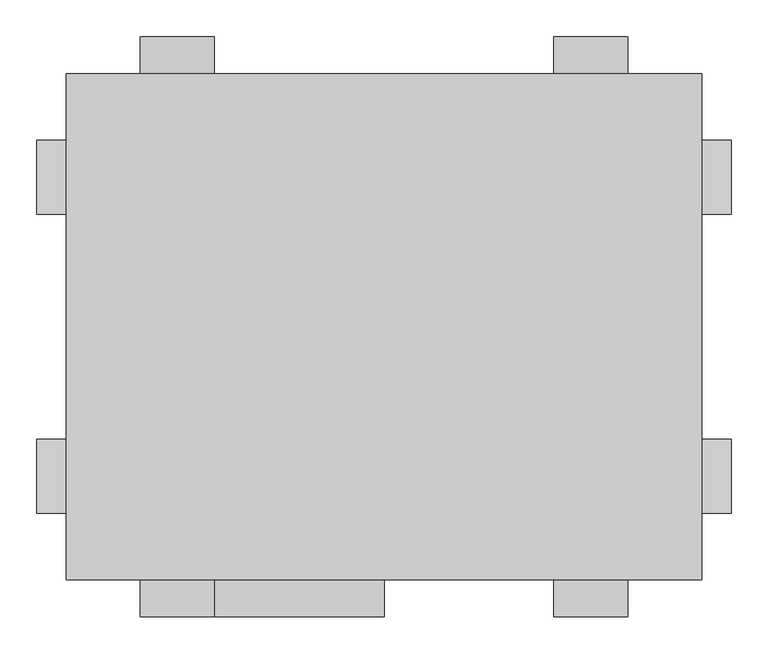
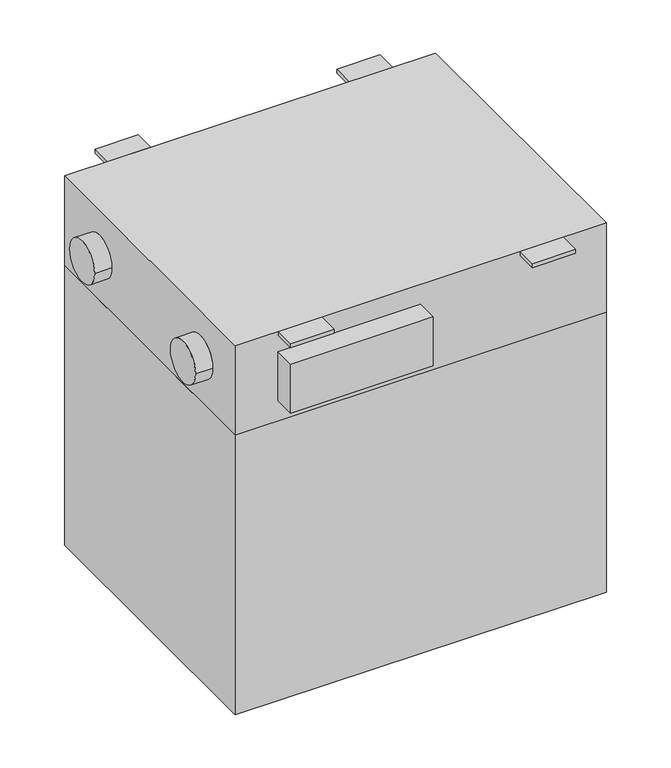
"""IFC4 building model written with IfcOpenShell, lengths in millimetres: proxy geometry, ADSK_КПВУ RONA SRME_круглая : Rona SRME 180 H1."""

import ifcopenshell
import ifcopenshell.guid

model = None  # the IFC model being written
_history = None  # IfcOwnerHistory: only IFC2X3 demands one
_inside = {}  # id of a spatial element -> (the spatial element, [elements in it])
_under = {}  # id of a project, library or spatial element -> (it, [spatial elements below it])
_declared = {}  # id of a project -> (the project, [libraries it declares])
_typed = {}  # id of a type object -> (the type object, [elements of that type])
_made_of = {}  # id of a material, layer set ... -> (it, [elements and type objects made of it])


def new_model(schema):
    """Start an empty IFC model of exactly this schema.

    Asked for "IFC4X3", IfcOpenShell would pick the latest addendum, in which some entities
    have other attributes; the version numbers below select the first issue.
    IFC2X3 requires an IfcOwnerHistory on every rooted entity: one is made here for all.
    """
    global model, _history
    if schema == "IFC4X3":
        model = ifcopenshell.file(schema_version=(4, 3, 0, 0))
    else:
        model = ifcopenshell.file(schema=schema)
    _inside.clear()
    _under.clear()
    _declared.clear()
    _typed.clear()
    _made_of.clear()
    _history = None
    if model.schema == "IFC2X3":
        org = make("IfcOrganization", Name="unknown")
        user = make(
            "IfcPersonAndOrganization",
            ThePerson=make("IfcPerson", FamilyName="unknown"),
            TheOrganization=org,
        )
        app = make(
            "IfcApplication",
            ApplicationDeveloper=org,
            Version="unknown",
            ApplicationFullName="unknown",
            ApplicationIdentifier="unknown",
        )
        _history = make(
            "IfcOwnerHistory",
            OwningUser=user,
            OwningApplication=app,
            ChangeAction="ADDED",
            CreationDate=0,
        )
    return model


def make(cls, **values):
    """One entity of the class cls with the attributes given. An attribute that is None is left unset."""
    return model.create_entity(
        cls, **{name: value for name, value in values.items() if value is not None}
    )


def rooted(cls, **values):
    """An entity with a GlobalId (a new one), such as an element, a storey or a relation."""
    return make(cls, GlobalId=ifcopenshell.guid.new(), OwnerHistory=_history, **values)


def si_unit(unit_type, name, prefix=None):
    """IfcSIUnit, for example si_unit("LENGTHUNIT", "METRE", prefix="MILLI")."""
    return make("IfcSIUnit", UnitType=unit_type, Prefix=prefix, Name=name)


def assignment(units):
    """IfcUnitAssignment: the units of a project."""
    return None if units is None else make("IfcUnitAssignment", Units=units)


def point(xyz):
    """IfcCartesianPoint."""
    return None if xyz is None else make("IfcCartesianPoint", Coordinates=xyz)


def direction(xyz):
    """IfcDirection."""
    return None if xyz is None else make("IfcDirection", DirectionRatios=xyz)


def frame(location, z_axis=None, x_axis=None):
    """IfcAxis2Placement3D, a coordinate frame: its origin and axes. An axis left out is left unset."""
    return make(
        "IfcAxis2Placement3D",
        Location=point(location),
        Axis=direction(z_axis),
        RefDirection=direction(x_axis),
    )


def origin():
    """The frame at (0, 0, 0) with its axes left unset."""
    return frame((0.0, 0.0, 0.0))


def place(relative_to, where):
    """IfcLocalPlacement: puts the frame where relative to a parent placement (None: the world)."""
    return make(
        "IfcLocalPlacement", PlacementRelTo=relative_to, RelativePlacement=where
    )


def context(
    kind, dimensions, precision=None, world=None, true_north=None, identifier=None
):
    """IfcGeometricRepresentationContext, for example the 3D "Model" context."""
    return make(
        "IfcGeometricRepresentationContext",
        ContextIdentifier=identifier,
        ContextType=kind,
        CoordinateSpaceDimension=dimensions,
        Precision=precision,
        WorldCoordinateSystem=world,
        TrueNorth=true_north,
    )


def project(units=None, contexts=None):
    """IfcProject with its units and contexts."""
    return rooted(
        "IfcProject",
        Name="project",
        RepresentationContexts=contexts,
        UnitsInContext=assignment(units),
    )


def spatial(cls, under=None, at=None, **own):
    """A site, building, storey or space (cls), placed at a placement, below another one or the project."""
    s = rooted(cls, ObjectPlacement=at, **own)
    if under is not None:
        _under.setdefault(under.id(), (under, []))[1].append(s)
    return s


def polyline(points):
    """IfcPolyline through the points."""
    return make("IfcPolyline", Points=[point(p) for p in points])


def circle_curve(where, radius):
    """IfcCircle in the frame where."""
    return make("IfcCircle", Position=where, Radius=radius)


def outline(outer, holes=None, kind="AREA"):
    """IfcArbitraryClosedProfileDef: a profile drawn as a closed curve; with holes, ...WithVoids."""
    if holes is None:
        return make("IfcArbitraryClosedProfileDef", ProfileType=kind, OuterCurve=outer)
    return make(
        "IfcArbitraryProfileDefWithVoids",
        ProfileType=kind,
        OuterCurve=outer,
        InnerCurves=holes,
    )


def extrude(swept, where, along, depth):
    """IfcExtrudedAreaSolid: the profile swept, set in the frame where, extruded along a direction by depth."""
    return make(
        "IfcExtrudedAreaSolid",
        SweptArea=swept,
        Position=where,
        ExtrudedDirection=direction(along),
        Depth=depth,
    )


def shape(context_of_items, identifier, shape_type, items):
    """IfcShapeRepresentation: the items that make up one representation, for example the "Body"."""
    return make(
        "IfcShapeRepresentation",
        ContextOfItems=context_of_items,
        RepresentationIdentifier=identifier,
        RepresentationType=shape_type,
        Items=items,
    )


def source(mapping_origin, context_of_items, identifier, shape_type, items):
    """IfcRepresentationMap: a shape defined once, which mapped items show again and again."""
    return make(
        "IfcRepresentationMap",
        MappingOrigin=mapping_origin,
        MappedRepresentation=shape(context_of_items, identifier, shape_type, items),
    )


def transform(
    local_origin,
    x_axis=None,
    y_axis=None,
    z_axis=None,
    scale=None,
    scale2=None,
    scale3=None,
    uniform=True,
):
    """IfcCartesianTransformationOperator3D, or its non-uniform kind. x_axis, y_axis, z_axis: its Axis1, 2, 3."""
    if uniform:
        return make(
            "IfcCartesianTransformationOperator3D",
            Axis1=direction(x_axis),
            Axis2=direction(y_axis),
            LocalOrigin=point(local_origin),
            Scale=scale,
            Axis3=direction(z_axis),
        )
    return make(
        "IfcCartesianTransformationOperator3DnonUniform",
        Axis1=direction(x_axis),
        Axis2=direction(y_axis),
        LocalOrigin=point(local_origin),
        Scale=scale,
        Axis3=direction(z_axis),
        Scale2=scale2,
        Scale3=scale3,
    )


def mapped(mapping_source, mapping_target):
    """IfcMappedItem: shows the shape of a source again, moved by a transform."""
    return make(
        "IfcMappedItem", MappingSource=mapping_source, MappingTarget=mapping_target
    )


def made_of(thing, what):
    """Note that an element or type object is made of a material, layer set ...; save() writes the relation."""
    if what is not None:
        _made_of.setdefault(what.id(), (what, []))[1].append(thing)
    return thing


def element(
    cls,
    number,
    at=None,
    inside=None,
    cuts=None,
    type_object=None,
    material=None,
    context=None,
    identifier="Body",
    shape_type=None,
    held_by="IfcProductDefinitionShape",
    body=None,
    shapes=None,
    **own,
):
    """One element of the class cls, such as IfcWall. Its Tag is "e" and its number.

    at: its placement. inside: the storey or other place that contains it. cuts: it is an
    opening in that element (IfcRelVoidsElement). A single representation is given by context,
    identifier, shape_type and body (its items); several are given by shapes. held_by: the class
    of the entity that holds the representations. save() writes the other relations.
    """
    e = rooted(cls, Tag="e%d" % number, ObjectPlacement=at, **own)
    if body is not None:
        shapes = [shape(context, identifier, shape_type, body)]
    if shapes is not None:
        e.Representation = make(held_by, Representations=shapes)
    if inside is not None:
        _inside.setdefault(inside.id(), (inside, []))[1].append(e)
    if cuts is not None:
        rooted(
            "IfcRelVoidsElement", RelatingBuildingElement=cuts, RelatedOpeningElement=e
        )
    if type_object is not None:
        _typed.setdefault(type_object.id(), (type_object, []))[1].append(e)
    return made_of(e, material)


def aggregate(whole, parts):
    """IfcRelAggregates: a whole, such as a stair, and the parts it consists of."""
    return rooted("IfcRelAggregates", RelatingObject=whole, RelatedObjects=parts)


def save(model, path):
    """Write the relations noted so far, then the file.

    IfcRelAggregates (storeys below a building ...), IfcRelContainedInSpatialStructure (elements
    in a storey), IfcRelDefinesByType, IfcRelAssociatesMaterial and IfcRelDeclares: one each for
    every whole, place, type object, material and project.
    """
    for whole, parts in _under.values():
        aggregate(whole, parts)
    for where, things in _inside.values():
        rooted(
            "IfcRelContainedInSpatialStructure",
            RelatedElements=things,
            RelatingStructure=where,
        )
    for kind, things in _typed.values():
        rooted("IfcRelDefinesByType", RelatedObjects=things, RelatingType=kind)
    for what, things in _made_of.values():
        rooted("IfcRelAssociatesMaterial", RelatedObjects=things, RelatingMaterial=what)
    for by, libraries in _declared.values():
        rooted("IfcRelDeclares", RelatingContext=by, RelatedDefinitions=libraries)
    model.write(path)


def plane_surface(at):
    """IfcPlane: the flat surface through the origin of the frame at, square to its z axis."""
    return make("IfcPlane", Position=at)


def cylinder_surface(at, radius):
    """IfcCylindricalSurface: all points at the distance radius from the z axis of the frame at."""
    return make("IfcCylindricalSurface", Position=at, Radius=radius)


def advanced_brep(points, edges, surfaces, faces):
    """IfcAdvancedBrep: a solid bounded by faces that lie on surfaces and meet in shared edges.

    An edge is (start, end): straight between two places in points (the first is 0);
    or (start, end, curve); or (start, end, curve, False) where it runs against its curve.
    A face is (place in surfaces, loops), or (place, loops, False) where it looks against
    its surface's normal. A loop lists edges by number (the first is 1), with a minus sign
    where the edge is run from its end to its start. The first loop is the outer one.
    """
    corners = [point(p) for p in points]
    vertices = [make("IfcVertexPoint", VertexGeometry=c) for c in corners]
    made = []
    for start, end, *more in edges:
        made.append(
            make(
                "IfcEdgeCurve",
                EdgeStart=vertices[start],
                EdgeEnd=vertices[end],
                EdgeGeometry=more[0] if more else make("IfcPolyline", Points=[corners[start], corners[end]]),
                SameSense=more[1] if len(more) > 1 else True,
            )
        )
    hull = []
    for where, loops, *sense in faces:
        bounds = []
        for j, loop in enumerate(loops):
            ring = [make("IfcOrientedEdge", EdgeElement=made[abs(k) - 1], Orientation=k > 0) for k in loop]
            bounds.append(
                make(
                    "IfcFaceOuterBound" if j == 0 else "IfcFaceBound",
                    Bound=make("IfcEdgeLoop", EdgeList=ring),
                    Orientation=True,
                )
            )
        hull.append(make("IfcAdvancedFace", Bounds=bounds, FaceSurface=surfaces[where], SameSense=sense[0] if sense else True))
    return make("IfcAdvancedBrep", Outer=make("IfcClosedShell", CfsFaces=hull))


def mechanical_equipment_53d196b1(model_context):
    return source(origin(), model_context, "Body", "SolidModel", [
        extrude(outline(polyline([(696.0, 342.5), (696.0, -342.5), (-164.0, -342.5), (-164.0, 342.5), (696.0, 342.5)])), frame((0.0, 0.0, -755.0), z_axis=(0.0, 0.0, 1.0), x_axis=(1.0, 0.0, 0.0)), (0.0, 0.0, 1.0), 685.0),
        advanced_brep(
        [(696.0, -342.5, 150.0), (696.0, -342.5, -70.0), (696.0, 342.5, -70.0), (696.0, 342.5, 150.0), (696.0, -152.5, 40.0), (696.0, -252.5, 40.0), (696.0, 252.5, 40.0), (696.0, 152.5, 40.0), (-164.0, -342.5, 150.0), (-164.0, 342.5, 150.0), (-164.0, 342.5, -70.0), (-164.0, -342.5, -70.0), (-164.0, -152.5, 40.0), (-164.0, -252.5, 40.0), (-164.0, 152.5, 40.0), (-164.0, 252.5, 40.0), (-204.0, -252.5, 40.0), (-204.0, -152.5, 40.0), (-204.0, 152.5, 40.0), (-204.0, 252.5, 40.0), (-64.0, -342.5, 100.0), (266.0, -342.5, 100.0), (266.0, -342.5, -20.0), (-64.0, -342.5, -20.0), (736.0, -252.5, 40.0), (736.0, -152.5, 40.0), (736.0, 152.5, 40.0), (736.0, 252.5, 40.0), (-64.0, -392.5, 100.0), (266.0, -392.5, 100.0), (266.0, -392.5, -20.0), (-64.0, -392.5, -20.0)],
        [
            (0, 1),
            (1, 2),
            (2, 3),
            (3, 0),
            (4, 5, circle_curve(frame((696.0, -202.5, 40.0), z_axis=(-1.0, 0.0, 0.0), x_axis=(0.0, 1.0, 0.0)), 50.0)),
            (5, 4, circle_curve(frame((696.0, -202.5, 40.0), z_axis=(-1.0, 0.0, 0.0), x_axis=(0.0, 1.0, 0.0)), 50.0)),
            (6, 7, circle_curve(frame((696.0, 202.5, 40.0), z_axis=(-1.0, 0.0, 0.0), x_axis=(0.0, 1.0, 0.0)), 50.0)),
            (7, 6, circle_curve(frame((696.0, 202.5, 40.0), z_axis=(-1.0, 0.0, 0.0), x_axis=(0.0, 1.0, 0.0)), 50.0)),
            (8, 9),
            (9, 10),
            (10, 11),
            (11, 8),
            (12, 13, circle_curve(frame((-164.0, -202.5, 40.0), z_axis=(1.0, 0.0, 0.0), x_axis=(0.0, 1.0, 0.0)), 50.0)),
            (13, 12, circle_curve(frame((-164.0, -202.5, 40.0), z_axis=(1.0, 0.0, 0.0), x_axis=(0.0, 1.0, 0.0)), 50.0)),
            (14, 15, circle_curve(frame((-164.0, 202.5, 40.0), z_axis=(1.0, 0.0, 0.0), x_axis=(0.0, 1.0, 0.0)), 50.0)),
            (15, 14, circle_curve(frame((-164.0, 202.5, 40.0), z_axis=(1.0, 0.0, 0.0), x_axis=(0.0, 1.0, 0.0)), 50.0)),
            (16, 17, circle_curve(frame((-204.0, -202.5, 40.0), z_axis=(-1.0, 0.0, 0.0), x_axis=(0.0, 1.0, 0.0)), 50.0)),
            (17, 16, circle_curve(frame((-204.0, -202.5, 40.0), z_axis=(-1.0, 0.0, 0.0), x_axis=(0.0, 1.0, 0.0)), 50.0)),
            (18, 19, circle_curve(frame((-204.0, 202.5, 40.0), z_axis=(-1.0, 0.0, 0.0), x_axis=(0.0, 1.0, 0.0)), 50.0)),
            (19, 18, circle_curve(frame((-204.0, 202.5, 40.0), z_axis=(-1.0, 0.0, 0.0), x_axis=(0.0, 1.0, 0.0)), 50.0)),
            (0, 8),
            (11, 1),
            (20, 21),
            (21, 22),
            (22, 23),
            (23, 20),
            (10, 2),
            (9, 3),
            (16, 13),
            (12, 17),
            (24, 25, circle_curve(frame((736.0, -202.5, 40.0), z_axis=(1.0, 0.0, 0.0), x_axis=(0.0, 1.0, 0.0)), 50.0)),
            (25, 24, circle_curve(frame((736.0, -202.5, 40.0), z_axis=(1.0, 0.0, 0.0), x_axis=(0.0, 1.0, 0.0)), 50.0)),
            (26, 27, circle_curve(frame((736.0, 202.5, 40.0), z_axis=(1.0, 0.0, 0.0), x_axis=(0.0, 1.0, 0.0)), 50.0)),
            (27, 26, circle_curve(frame((736.0, 202.5, 40.0), z_axis=(1.0, 0.0, 0.0), x_axis=(0.0, 1.0, 0.0)), 50.0)),
            (24, 5),
            (4, 25),
            (19, 15),
            (14, 18),
            (26, 7),
            (6, 27),
            (20, 28),
            (28, 29),
            (29, 21),
            (22, 30),
            (30, 31),
            (31, 23),
            (31, 28),
            (30, 29),
        ],
        [
            plane_surface(frame((696.0, -342.5, 150.0), z_axis=(1.0, 0.0, 0.0), x_axis=(0.0, 0.0, -1.0))),
            plane_surface(frame((-164.0, -342.5, 150.0), z_axis=(-1.0, 0.0, 0.0), x_axis=(0.0, 0.0, 1.0))),
            plane_surface(frame((-204.0, -152.5, 40.0), z_axis=(-1.0, 0.0, 0.0), x_axis=(0.0, 0.0, -1.0))),
            plane_surface(frame((696.0, -342.5, 150.0), z_axis=(0.0, -1.0, 0.0), x_axis=(-1.0, 0.0, 0.0))),
            plane_surface(frame((696.0, -342.5, -70.0), z_axis=(0.0, 0.0, -1.0), x_axis=(-1.0, 0.0, 0.0))),
            plane_surface(frame((696.0, 342.5, -70.0), z_axis=(0.0, 1.0, 0.0), x_axis=(-1.0, 0.0, 0.0))),
            plane_surface(frame((696.0, 342.5, 150.0), z_axis=(0.0, 0.0, 1.0), x_axis=(-1.0, 0.0, 0.0))),
            cylinder_surface(frame((-204.0, -202.5, 40.0), z_axis=(1.0, 0.0, 0.0), x_axis=(0.0, 1.0, 0.0)), 50.0),
            plane_surface(frame((736.0, -152.5, 40.0), z_axis=(1.0, 0.0, 0.0), x_axis=(0.0, 0.0, 1.0))),
            cylinder_surface(frame((696.0, -202.5, 40.0), z_axis=(1.0, 0.0, 0.0), x_axis=(0.0, 1.0, 0.0)), 50.0),
            cylinder_surface(frame((-204.0, 202.5, 40.0), z_axis=(1.0, 0.0, 0.0), x_axis=(0.0, 1.0, 0.0)), 50.0),
            cylinder_surface(frame((696.0, 202.5, 40.0), z_axis=(1.0, 0.0, 0.0), x_axis=(0.0, 1.0, 0.0)), 50.0),
            plane_surface(frame((-64.0, -342.5, 100.0), z_axis=(0.0, 0.0, 1.0), x_axis=(-1.0, 0.0, 0.0))),
            plane_surface(frame((-64.0, -342.5, -20.0), z_axis=(0.0, 0.0, -1.0), x_axis=(1.0, 0.0, 0.0))),
            plane_surface(frame((-64.0, -342.5, 100.0), z_axis=(-1.0, 0.0, 0.0), x_axis=(0.0, 0.0, -1.0))),
            plane_surface(frame((-64.0, -392.5, 100.0), z_axis=(0.0, -1.0, 0.0), x_axis=(0.0, 0.0, -1.0))),
            plane_surface(frame((266.0, -392.5, 100.0), z_axis=(1.0, 0.0, 0.0), x_axis=(0.0, 0.0, -1.0))),
        ],
        [
            (0, [[1, 2, 3, 4], [5, 6], [7, 8]]),
            (1, [[9, 10, 11, 12], [13, 14], [15, 16]]),
            (2, [[17, 18]]),
            (2, [[19, 20]]),
            (3, [[-1, 21, -12, 22], [23, 24, 25, 26]]),
            (4, [[-2, -22, -11, 27]]),
            (5, [[-3, -27, -10, 28]]),
            (6, [[-4, -28, -9, -21]]),
            (7, [[-17, 29, -13, 30]]),
            (7, [[-18, -30, -14, -29]]),
            (8, [[31, 32]]),
            (8, [[33, 34]]),
            (9, [[-31, 35, -5, 36]]),
            (9, [[-32, -36, -6, -35]]),
            (10, [[-20, 37, -15, 38]]),
            (10, [[-19, -38, -16, -37]]),
            (11, [[-33, 39, -7, 40]]),
            (11, [[-34, -40, -8, -39]]),
            (12, [[41, 42, 43, -23]]),
            (13, [[44, 45, 46, -25]]),
            (14, [[-41, -26, -46, 47]]),
            (15, [[-42, -47, -45, 48]]),
            (16, [[-43, -48, -44, -24]]),
        ],
    ),
        extrude(outline(polyline([(36.0, 392.5), (36.0, 342.5), (-64.0, 342.5), (-64.0, 392.5), (36.0, 392.5)])), frame((0.0, 0.0, 140.0), z_axis=(0.0, 0.0, 1.0), x_axis=(1.0, 0.0, 0.0)), (0.0, 0.0, 1.0), 10.0),
        extrude(outline(polyline([(496.0, 392.5), (596.0, 392.5), (596.0, 342.5), (496.0, 342.5), (496.0, 392.5)])), frame((0.0, 0.0, 140.0), z_axis=(0.0, 0.0, 1.0), x_axis=(1.0, 0.0, 0.0)), (0.0, 0.0, 1.0), 10.0),
        extrude(outline(polyline([(36.0, -392.5), (-64.0, -392.5), (-64.0, -342.5), (36.0, -342.5), (36.0, -392.5)])), frame((0.0, 0.0, 140.0), z_axis=(0.0, 0.0, 1.0), x_axis=(1.0, 0.0, 0.0)), (0.0, 0.0, 1.0), 10.0),
        extrude(outline(polyline([(496.0, -392.5), (496.0, -342.5), (596.0, -342.5), (596.0, -392.5), (496.0, -392.5)])), frame((0.0, 0.0, 140.0), z_axis=(0.0, 0.0, 1.0), x_axis=(1.0, 0.0, 0.0)), (0.0, 0.0, 1.0), 10.0),
    ])


if __name__ == "__main__":
    model = new_model("IFC4")
    model_context = context("Model", 3, world=origin())
    ifc_project = project(units=[si_unit("LENGTHUNIT", "METRE", prefix="MILLI")], contexts=[model_context])
    site = spatial("IfcSite", under=ifc_project)
    building = spatial("IfcBuilding", under=site)
    placement = place(None, origin())
    mechanical_equipment_shape = mechanical_equipment_53d196b1(model_context)
    element("IfcBuildingElementProxy", 1, Name="ADSK_КПВУ RONA SRME_круглая : Rona SRME 180 H1", ObjectType="ADSK_КПВУ RONA SRME_круглая : Rona SRME 180 H1", at=placement, inside=building, context=model_context, shape_type="MappedRepresentation", body=[
        mapped(mechanical_equipment_shape, transform((0.0, 0.0, 0.0), x_axis=(1.0, 0.0, 0.0), y_axis=(0.0, 1.0, 0.0), z_axis=(0.0, 0.0, 1.0))),
    ])
    save(model, "model.ifc")
